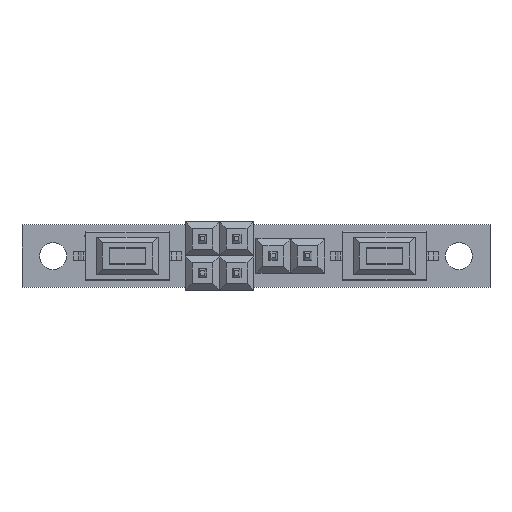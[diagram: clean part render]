
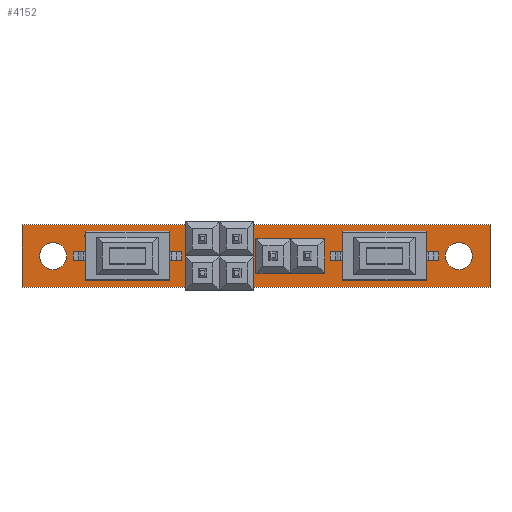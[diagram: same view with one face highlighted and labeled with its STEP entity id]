
A CAD part, top view. The second image highlights one B-rep face of the part: STEP entity #4152.
In plain terms, the highlighted planar face has unit normal (0, 0, 1).
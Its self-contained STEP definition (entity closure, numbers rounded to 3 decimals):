
#274=FACE_BOUND('',#696,.T.);
#275=FACE_BOUND('',#697,.T.);
#276=FACE_BOUND('',#698,.T.);
#277=FACE_BOUND('',#699,.T.);
#278=FACE_BOUND('',#700,.T.);
#279=FACE_BOUND('',#701,.T.);
#280=FACE_BOUND('',#702,.T.);
#281=FACE_BOUND('',#703,.T.);
#282=FACE_BOUND('',#704,.T.);
#283=FACE_BOUND('',#705,.T.);
#321=PLANE('',#4456);
#474=FACE_OUTER_BOUND('',#695,.T.);
#695=EDGE_LOOP('',(#2769,#2770,#2771,#2772));
#696=EDGE_LOOP('',(#2773));
#697=EDGE_LOOP('',(#2774));
#698=EDGE_LOOP('',(#2775));
#699=EDGE_LOOP('',(#2776));
#700=EDGE_LOOP('',(#2777));
#701=EDGE_LOOP('',(#2778));
#702=EDGE_LOOP('',(#2779));
#703=EDGE_LOOP('',(#2780));
#704=EDGE_LOOP('',(#2781));
#705=EDGE_LOOP('',(#2782));
#957=LINE('',#5844,#1301);
#960=LINE('',#5850,#1304);
#963=LINE('',#5856,#1307);
#966=LINE('',#5860,#1310);
#1301=VECTOR('',#4836,10.);
#1304=VECTOR('',#4841,10.);
#1307=VECTOR('',#4846,10.);
#1310=VECTOR('',#4851,10.);
#1634=CIRCLE('',#4424,0.508);
#1636=CIRCLE('',#4427,0.508);
#1638=CIRCLE('',#4430,0.508);
#1640=CIRCLE('',#4433,0.15);
#1642=CIRCLE('',#4436,0.508);
#1644=CIRCLE('',#4439,0.15);
#1646=CIRCLE('',#4442,0.508);
#1648=CIRCLE('',#4445,0.508);
#1649=CIRCLE('',#4447,1.);
#1651=CIRCLE('',#4450,1.);
#1722=VERTEX_POINT('',#5780);
#1724=VERTEX_POINT('',#5786);
#1726=VERTEX_POINT('',#5792);
#1728=VERTEX_POINT('',#5798);
#1730=VERTEX_POINT('',#5804);
#1732=VERTEX_POINT('',#5810);
#1734=VERTEX_POINT('',#5816);
#1736=VERTEX_POINT('',#5822);
#1737=VERTEX_POINT('',#5826);
#1739=VERTEX_POINT('',#5832);
#1743=VERTEX_POINT('',#5841);
#1744=VERTEX_POINT('',#5843);
#1746=VERTEX_POINT('',#5849);
#1748=VERTEX_POINT('',#5855);
#2124=EDGE_CURVE('',#1722,#1722,#1634,.T.);
#2127=EDGE_CURVE('',#1724,#1724,#1636,.T.);
#2130=EDGE_CURVE('',#1726,#1726,#1638,.T.);
#2133=EDGE_CURVE('',#1728,#1728,#1640,.T.);
#2136=EDGE_CURVE('',#1730,#1730,#1642,.T.);
#2139=EDGE_CURVE('',#1732,#1732,#1644,.T.);
#2142=EDGE_CURVE('',#1734,#1734,#1646,.T.);
#2145=EDGE_CURVE('',#1736,#1736,#1648,.T.);
#2146=EDGE_CURVE('',#1737,#1737,#1649,.T.);
#2149=EDGE_CURVE('',#1739,#1739,#1651,.T.);
#2154=EDGE_CURVE('',#1744,#1743,#957,.T.);
#2157=EDGE_CURVE('',#1746,#1744,#960,.T.);
#2160=EDGE_CURVE('',#1748,#1746,#963,.T.);
#2163=EDGE_CURVE('',#1743,#1748,#966,.T.);
#2769=ORIENTED_EDGE('',*,*,#2163,.T.);
#2770=ORIENTED_EDGE('',*,*,#2160,.T.);
#2771=ORIENTED_EDGE('',*,*,#2157,.T.);
#2772=ORIENTED_EDGE('',*,*,#2154,.T.);
#2773=ORIENTED_EDGE('',*,*,#2124,.T.);
#2774=ORIENTED_EDGE('',*,*,#2127,.T.);
#2775=ORIENTED_EDGE('',*,*,#2130,.T.);
#2776=ORIENTED_EDGE('',*,*,#2133,.T.);
#2777=ORIENTED_EDGE('',*,*,#2136,.T.);
#2778=ORIENTED_EDGE('',*,*,#2139,.T.);
#2779=ORIENTED_EDGE('',*,*,#2142,.T.);
#2780=ORIENTED_EDGE('',*,*,#2145,.T.);
#2781=ORIENTED_EDGE('',*,*,#2149,.T.);
#2782=ORIENTED_EDGE('',*,*,#2146,.T.);
#4152=ADVANCED_FACE('',(#474,#274,#275,#276,#277,#278,#279,#280,#281,#282,
#283),#321,.T.);
#4424=AXIS2_PLACEMENT_3D('',#5782,#4767,#4768);
#4427=AXIS2_PLACEMENT_3D('',#5788,#4774,#4775);
#4430=AXIS2_PLACEMENT_3D('',#5794,#4781,#4782);
#4433=AXIS2_PLACEMENT_3D('',#5800,#4788,#4789);
#4436=AXIS2_PLACEMENT_3D('',#5806,#4795,#4796);
#4439=AXIS2_PLACEMENT_3D('',#5812,#4802,#4803);
#4442=AXIS2_PLACEMENT_3D('',#5818,#4809,#4810);
#4445=AXIS2_PLACEMENT_3D('',#5824,#4816,#4817);
#4447=AXIS2_PLACEMENT_3D('',#5827,#4820,#4821);
#4450=AXIS2_PLACEMENT_3D('',#5833,#4827,#4828);
#4456=AXIS2_PLACEMENT_3D('',#5861,#4852,#4853);
#4767=DIRECTION('center_axis',(0.,0.,-1.));
#4768=DIRECTION('ref_axis',(1.,0.,0.));
#4774=DIRECTION('center_axis',(0.,0.,-1.));
#4775=DIRECTION('ref_axis',(1.,0.,0.));
#4781=DIRECTION('center_axis',(0.,0.,-1.));
#4782=DIRECTION('ref_axis',(1.,0.,0.));
#4788=DIRECTION('center_axis',(0.,0.,-1.));
#4789=DIRECTION('ref_axis',(1.,0.,0.));
#4795=DIRECTION('center_axis',(0.,0.,-1.));
#4796=DIRECTION('ref_axis',(1.,0.,0.));
#4802=DIRECTION('center_axis',(0.,0.,-1.));
#4803=DIRECTION('ref_axis',(1.,0.,0.));
#4809=DIRECTION('center_axis',(0.,0.,-1.));
#4810=DIRECTION('ref_axis',(1.,0.,0.));
#4816=DIRECTION('center_axis',(0.,0.,-1.));
#4817=DIRECTION('ref_axis',(1.,0.,0.));
#4820=DIRECTION('center_axis',(0.,0.,-1.));
#4821=DIRECTION('ref_axis',(1.,0.,0.));
#4827=DIRECTION('center_axis',(0.,0.,-1.));
#4828=DIRECTION('ref_axis',(1.,0.,0.));
#4836=DIRECTION('',(0.,1.,0.));
#4841=DIRECTION('',(1.,0.,0.));
#4846=DIRECTION('',(0.,-1.,0.));
#4851=DIRECTION('',(-1.,0.,0.));
#4852=DIRECTION('center_axis',(0.,0.,1.));
#4853=DIRECTION('ref_axis',(1.,0.,0.));
#5780=CARTESIAN_POINT('',(15.592,1.23,1.57));
#5782=CARTESIAN_POINT('Origin',(16.1,1.23,1.57));
#5786=CARTESIAN_POINT('',(18.232,2.5,1.57));
#5788=CARTESIAN_POINT('Origin',(18.74,2.5,1.57));
#5792=CARTESIAN_POINT('',(13.052,3.77,1.57));
#5794=CARTESIAN_POINT('Origin',(13.56,3.77,1.57));
#5798=CARTESIAN_POINT('',(4.85,4.,1.57));
#5800=CARTESIAN_POINT('Origin',(5.,4.,1.57));
#5804=CARTESIAN_POINT('',(15.592,3.77,1.57));
#5806=CARTESIAN_POINT('Origin',(16.1,3.77,1.57));
#5810=CARTESIAN_POINT('',(28.85,4.,1.57));
#5812=CARTESIAN_POINT('Origin',(29.,4.,1.57));
#5816=CARTESIAN_POINT('',(20.772,2.5,1.57));
#5818=CARTESIAN_POINT('Origin',(21.28,2.5,1.57));
#5822=CARTESIAN_POINT('',(13.052,1.23,1.57));
#5824=CARTESIAN_POINT('Origin',(13.56,1.23,1.57));
#5826=CARTESIAN_POINT('',(1.5,2.5,1.57));
#5827=CARTESIAN_POINT('Origin',(2.5,2.5,1.57));
#5832=CARTESIAN_POINT('',(31.5,2.5,1.57));
#5833=CARTESIAN_POINT('Origin',(32.5,2.5,1.57));
#5841=CARTESIAN_POINT('',(34.8,4.8,1.57));
#5843=CARTESIAN_POINT('',(34.8,0.2,1.57));
#5844=CARTESIAN_POINT('',(34.8,0.2,1.57));
#5849=CARTESIAN_POINT('',(0.2,0.2,1.57));
#5850=CARTESIAN_POINT('',(0.2,0.2,1.57));
#5855=CARTESIAN_POINT('',(0.2,4.8,1.57));
#5856=CARTESIAN_POINT('',(0.2,4.8,1.57));
#5860=CARTESIAN_POINT('',(27.,4.8,1.57));
#5861=CARTESIAN_POINT('Origin',(17.5,2.5,1.57));
